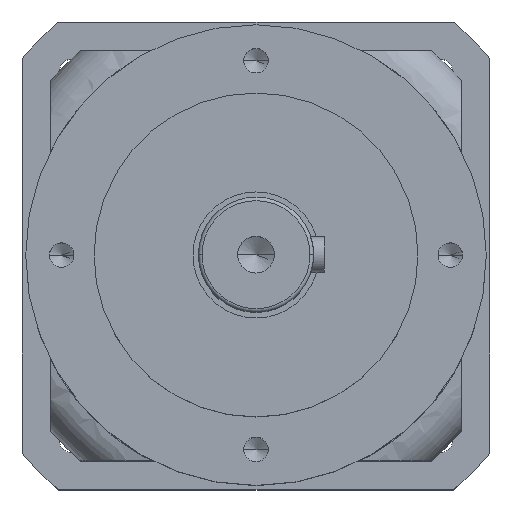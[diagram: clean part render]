
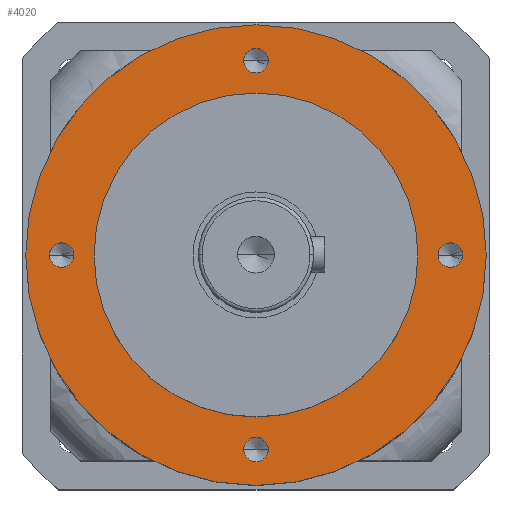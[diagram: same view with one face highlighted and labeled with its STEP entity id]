
A CAD part, top view. The second image highlights one B-rep face of the part: STEP entity #4020.
In plain terms, the highlighted planar face has unit normal (0, 0, 1).
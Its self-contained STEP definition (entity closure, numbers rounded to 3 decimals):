
#4 = AXIS2_PLACEMENT_3D ( 'NONE', #8983, #4345, #9762 ) ;
#8 = DIRECTION ( 'NONE',  ( 1., 0., 0. ) ) ;
#138 = CIRCLE ( 'NONE', #2154, 64. ) ;
#191 = CIRCLE ( 'NONE', #8110, 45. ) ;
#250 = EDGE_CURVE ( 'NONE', #6811, #6235, #2325, .T. ) ;
#453 = CARTESIAN_POINT ( 'NONE',  ( 54., 0., -70. ) ) ;
#582 = CIRCLE ( 'NONE', #1055, 3.4 ) ;
#587 = EDGE_CURVE ( 'NONE', #9608, #2442, #4888, .T. ) ;
#629 = VERTEX_POINT ( 'NONE', #4152 ) ;
#636 = CARTESIAN_POINT ( 'NONE',  ( 0., 54., -70. ) ) ;
#905 = EDGE_CURVE ( 'NONE', #6235, #6811, #3976, .T. ) ;
#930 = CIRCLE ( 'NONE', #6334, 3.4 ) ;
#1055 = AXIS2_PLACEMENT_3D ( 'NONE', #7629, #2877, #8366 ) ;
#1162 = DIRECTION ( 'NONE',  ( 0., 0., 1. ) ) ;
#1257 = DIRECTION ( 'NONE',  ( 1., 0., 0. ) ) ;
#1309 = DIRECTION ( 'NONE',  ( 0., 0., -1. ) ) ;
#1377 = EDGE_CURVE ( 'NONE', #3877, #3816, #2982, .T. ) ;
#1682 = CARTESIAN_POINT ( 'NONE',  ( 54., 0., -70. ) ) ;
#1797 = CARTESIAN_POINT ( 'NONE',  ( -50.6, 0., -70. ) ) ;
#1889 = EDGE_CURVE ( 'NONE', #3111, #2524, #930, .T. ) ;
#2130 = AXIS2_PLACEMENT_3D ( 'NONE', #2255, #7785, #3057 ) ;
#2154 = AXIS2_PLACEMENT_3D ( 'NONE', #5944, #1162, #6746 ) ;
#2225 = CARTESIAN_POINT ( 'NONE',  ( 0., -54., -70. ) ) ;
#2255 = CARTESIAN_POINT ( 'NONE',  ( -54., 0., -70. ) ) ;
#2325 = CIRCLE ( 'NONE', #2854, 3.4 ) ;
#2348 = CARTESIAN_POINT ( 'NONE',  ( 3.4, 54., -70. ) ) ;
#2442 = VERTEX_POINT ( 'NONE', #4084 ) ;
#2475 = DIRECTION ( 'NONE',  ( 1., 0., 0. ) ) ;
#2524 = VERTEX_POINT ( 'NONE', #2348 ) ;
#2545 = VERTEX_POINT ( 'NONE', #1797 ) ;
#2852 = CIRCLE ( 'NONE', #4, 3.4 ) ;
#2854 = AXIS2_PLACEMENT_3D ( 'NONE', #6004, #6119, #6081 ) ;
#2863 = VERTEX_POINT ( 'NONE', #6194 ) ;
#2870 = PLANE ( 'NONE',  #5522 ) ;
#2873 = AXIS2_PLACEMENT_3D ( 'NONE', #6308, #6910, #6943 ) ;
#2877 = DIRECTION ( 'NONE',  ( 0., 0., 1. ) ) ;
#2982 = CIRCLE ( 'NONE', #2873, 64. ) ;
#2984 = CARTESIAN_POINT ( 'NONE',  ( -3.4, -54., -70. ) ) ;
#3009 = ORIENTED_EDGE ( 'NONE', *, *, #250, .F. ) ;
#3047 = DIRECTION ( 'NONE',  ( 1., 0., 0. ) ) ;
#3053 = EDGE_LOOP ( 'NONE', ( #3009, #4703 ) ) ;
#3057 = DIRECTION ( 'NONE',  ( 1., 0., 0. ) ) ;
#3111 = VERTEX_POINT ( 'NONE', #8731 ) ;
#3282 = FACE_OUTER_BOUND ( 'NONE', #9622, .T. ) ;
#3288 = FACE_BOUND ( 'NONE', #9240, .T. ) ;
#3356 = CARTESIAN_POINT ( 'NONE',  ( 0., 0., -70. ) ) ;
#3371 = FACE_BOUND ( 'NONE', #8352, .T. ) ;
#3394 = DIRECTION ( 'NONE',  ( 0., 0., 1. ) ) ;
#3419 = FACE_BOUND ( 'NONE', #8216, .T. ) ;
#3439 = EDGE_CURVE ( 'NONE', #2545, #629, #9988, .T. ) ;
#3475 = FACE_BOUND ( 'NONE', #3053, .T. ) ;
#3543 = CARTESIAN_POINT ( 'NONE',  ( 45., 0., -70. ) ) ;
#3558 = AXIS2_PLACEMENT_3D ( 'NONE', #453, #6042, #1257 ) ;
#3620 = FACE_BOUND ( 'NONE', #9767, .T. ) ;
#3694 = DIRECTION ( 'NONE',  ( 1., 0., 0. ) ) ;
#3787 = EDGE_CURVE ( 'NONE', #2863, #10043, #6162, .T. ) ;
#3813 = DIRECTION ( 'NONE',  ( 1., 0., 0. ) ) ;
#3816 = VERTEX_POINT ( 'NONE', #5287 ) ;
#3877 = VERTEX_POINT ( 'NONE', #6122 ) ;
#3901 = ORIENTED_EDGE ( 'NONE', *, *, #7788, .F. ) ;
#3976 = CIRCLE ( 'NONE', #7395, 3.4 ) ;
#4020 = ADVANCED_FACE ( 'NONE', ( #3620, #3419, #3475, #3371, #3288, #3282 ), #2870, .F. ) ;
#4084 = CARTESIAN_POINT ( 'NONE',  ( -45., 0., -70. ) ) ;
#4152 = CARTESIAN_POINT ( 'NONE',  ( -57.4, 0., -70. ) ) ;
#4212 = ORIENTED_EDGE ( 'NONE', *, *, #587, .F. ) ;
#4345 = DIRECTION ( 'NONE',  ( 0., 0., 1. ) ) ;
#4395 = ORIENTED_EDGE ( 'NONE', *, *, #3439, .F. ) ;
#4586 = ORIENTED_EDGE ( 'NONE', *, *, #9122, .F. ) ;
#4616 = ORIENTED_EDGE ( 'NONE', *, *, #6048, .T. ) ;
#4703 = ORIENTED_EDGE ( 'NONE', *, *, #905, .F. ) ;
#4793 = AXIS2_PLACEMENT_3D ( 'NONE', #1682, #7234, #2475 ) ;
#4824 = DIRECTION ( 'NONE',  ( 0., 0., 1. ) ) ;
#4888 = CIRCLE ( 'NONE', #10013, 45. ) ;
#4942 = CIRCLE ( 'NONE', #4793, 3.4 ) ;
#5287 = CARTESIAN_POINT ( 'NONE',  ( -64., 0., -70. ) ) ;
#5522 = AXIS2_PLACEMENT_3D ( 'NONE', #9921, #1309, #6877 ) ;
#5944 = CARTESIAN_POINT ( 'NONE',  ( 0., 0., -70. ) ) ;
#5993 = EDGE_CURVE ( 'NONE', #629, #2545, #2852, .T. ) ;
#6004 = CARTESIAN_POINT ( 'NONE',  ( 0., -54., -70. ) ) ;
#6042 = DIRECTION ( 'NONE',  ( 0., 0., 1. ) ) ;
#6048 = EDGE_CURVE ( 'NONE', #3816, #3877, #138, .T. ) ;
#6081 = DIRECTION ( 'NONE',  ( 1., 0., 0. ) ) ;
#6119 = DIRECTION ( 'NONE',  ( 0., 0., 1. ) ) ;
#6122 = CARTESIAN_POINT ( 'NONE',  ( 64., 0., -70. ) ) ;
#6162 = CIRCLE ( 'NONE', #3558, 3.4 ) ;
#6194 = CARTESIAN_POINT ( 'NONE',  ( 50.6, 0., -70. ) ) ;
#6235 = VERTEX_POINT ( 'NONE', #2984 ) ;
#6308 = CARTESIAN_POINT ( 'NONE',  ( 0., 0., -70. ) ) ;
#6334 = AXIS2_PLACEMENT_3D ( 'NONE', #636, #9180, #3047 ) ;
#6568 = EDGE_CURVE ( 'NONE', #10043, #2863, #4942, .T. ) ;
#6746 = DIRECTION ( 'NONE',  ( 1., 0., 0. ) ) ;
#6811 = VERTEX_POINT ( 'NONE', #9764 ) ;
#6877 = DIRECTION ( 'NONE',  ( -1., 0., 0. ) ) ;
#6910 = DIRECTION ( 'NONE',  ( 0., 0., 1. ) ) ;
#6943 = DIRECTION ( 'NONE',  ( 1., 0., 0. ) ) ;
#7034 = ORIENTED_EDGE ( 'NONE', *, *, #5993, .F. ) ;
#7080 = DIRECTION ( 'NONE',  ( 0., 0., 1. ) ) ;
#7234 = DIRECTION ( 'NONE',  ( 0., 0., 1. ) ) ;
#7353 = CARTESIAN_POINT ( 'NONE',  ( 57.4, 0., -70. ) ) ;
#7395 = AXIS2_PLACEMENT_3D ( 'NONE', #2225, #7080, #3694 ) ;
#7629 = CARTESIAN_POINT ( 'NONE',  ( 0., 54., -70. ) ) ;
#7639 = ORIENTED_EDGE ( 'NONE', *, *, #3787, .F. ) ;
#7785 = DIRECTION ( 'NONE',  ( 0., 0., 1. ) ) ;
#7788 = EDGE_CURVE ( 'NONE', #2442, #9608, #191, .T. ) ;
#8110 = AXIS2_PLACEMENT_3D ( 'NONE', #9463, #4824, #8 ) ;
#8216 = EDGE_LOOP ( 'NONE', ( #9424, #7639 ) ) ;
#8352 = EDGE_LOOP ( 'NONE', ( #4395, #7034 ) ) ;
#8366 = DIRECTION ( 'NONE',  ( 1., 0., 0. ) ) ;
#8731 = CARTESIAN_POINT ( 'NONE',  ( -3.4, 54., -70. ) ) ;
#8983 = CARTESIAN_POINT ( 'NONE',  ( -54., 0., -70. ) ) ;
#9122 = EDGE_CURVE ( 'NONE', #2524, #3111, #582, .T. ) ;
#9180 = DIRECTION ( 'NONE',  ( 0., 0., 1. ) ) ;
#9240 = EDGE_LOOP ( 'NONE', ( #4212, #3901 ) ) ;
#9339 = ORIENTED_EDGE ( 'NONE', *, *, #1889, .F. ) ;
#9424 = ORIENTED_EDGE ( 'NONE', *, *, #6568, .F. ) ;
#9463 = CARTESIAN_POINT ( 'NONE',  ( 0., 0., -70. ) ) ;
#9608 = VERTEX_POINT ( 'NONE', #3543 ) ;
#9622 = EDGE_LOOP ( 'NONE', ( #9702, #4616 ) ) ;
#9702 = ORIENTED_EDGE ( 'NONE', *, *, #1377, .T. ) ;
#9762 = DIRECTION ( 'NONE',  ( 1., 0., 0. ) ) ;
#9764 = CARTESIAN_POINT ( 'NONE',  ( 3.4, -54., -70. ) ) ;
#9767 = EDGE_LOOP ( 'NONE', ( #4586, #9339 ) ) ;
#9921 = CARTESIAN_POINT ( 'NONE',  ( 0., 64., -70. ) ) ;
#9988 = CIRCLE ( 'NONE', #2130, 3.4 ) ;
#10013 = AXIS2_PLACEMENT_3D ( 'NONE', #3356, #3394, #3813 ) ;
#10043 = VERTEX_POINT ( 'NONE', #7353 ) ;
